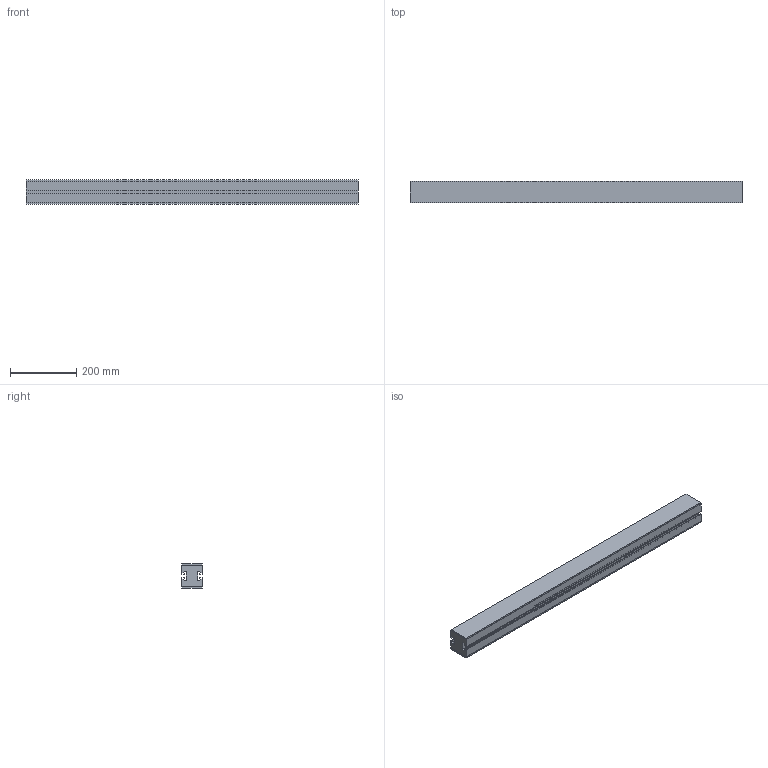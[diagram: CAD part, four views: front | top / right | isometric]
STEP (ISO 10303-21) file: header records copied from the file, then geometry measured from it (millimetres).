
FILE_DESCRIPTION(/* description */ ('Führungsprofil FL'),/* implementation_level */ '2;1');
FILE_NAME(/* name */ 'T:\vdz0\Step Daten Website\modulflex FL-System\Führungsprofil\FLCB L-1000.stp',/* time_stamp */ '2024-08-22T10:41:20+02:00',/* author */ ('vdz0'),/* organization */ ('modular automation GmbH'),/* preprocessor_version */ 'ST-DEVELOPER v18.1',/* originating_system */ 'Autodesk Inventor 2021',/* authorisation */ '');
FILE_SCHEMA (('CONFIG_CONTROL_DESIGN'));
Length unit declared in the file: millimetre
Products named in the file (1): FLCB L-1000
Bounding box: 1000 x 65 x 73 mm (x, y, z)
Volume: 4097520 mm3; surface area: 700195 mm2
Topology: 3 solids, 3 shells, 58 faces, 156 edges, 104 vertices
Faces by surface type: plane 58
Entity records: 1869 total; most frequent: CARTESIAN_POINT 319, ORIENTED_EDGE 312, DIRECTION 274, LINE 156, VECTOR 156, EDGE_CURVE 156, VERTEX_POINT 104, AXIS2_PLACEMENT_3D 59
